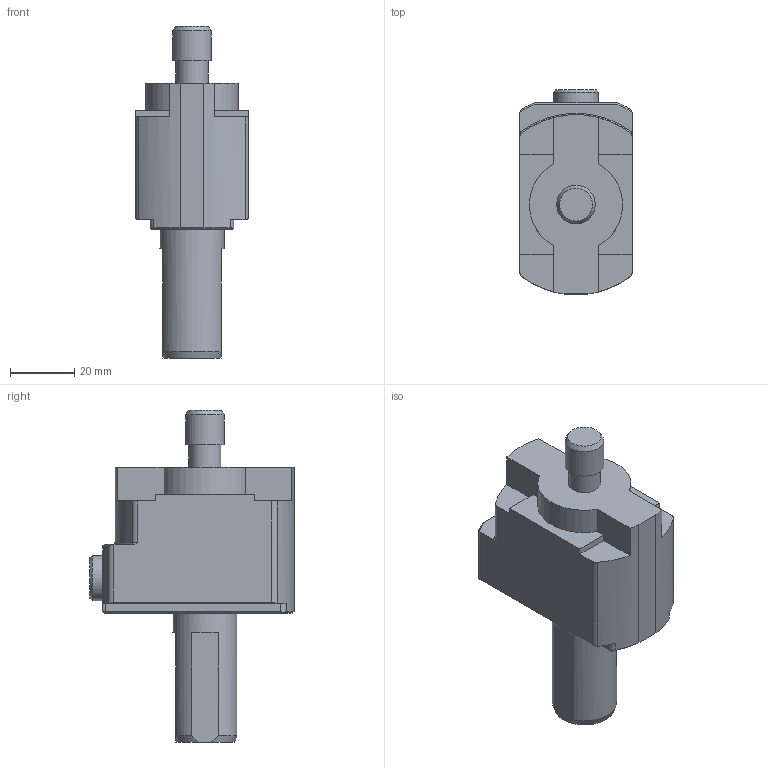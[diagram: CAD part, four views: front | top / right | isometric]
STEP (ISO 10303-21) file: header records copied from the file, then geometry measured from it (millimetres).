
FILE_DESCRIPTION (( 'STEP AP214' ), '1' );
FILE_NAME ('97-000-200 - light.STEP', '2024-11-14T13:36:08', ( 'pc' ), ( '' ), 'SwSTEP 2.0', 'SolidWorks 2024', '' );
FILE_SCHEMA (( 'AUTOMOTIVE_DESIGN' ));
Length unit declared in the file: millimetre
Products named in the file (1): 97-000-200 - light
Bounding box: 35 x 63.5 x 103.3 mm (x, y, z)
Volume: 92254.2 mm3; surface area: 15119.5 mm2
Topology: 1 solids, 1 shells, 83 faces, 212 edges, 137 vertices
Faces by surface type: plane 44, cylinder 23, cone 13, torus 3
Full cylindrical faces by diameter (mm): 10 x1, 12 x1, 14 x2, 15 x1, 20 x1
Entity records: 2582 total; most frequent: CARTESIAN_POINT 607, DIRECTION 405, ORIENTED_EDGE 400, EDGE_CURVE 200, AXIS2_PLACEMENT_3D 153, VERTEX_POINT 135, EDGE_LOOP 99, LINE 99
